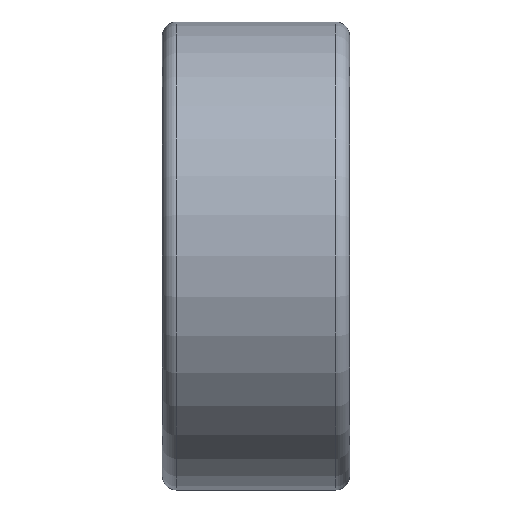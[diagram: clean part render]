
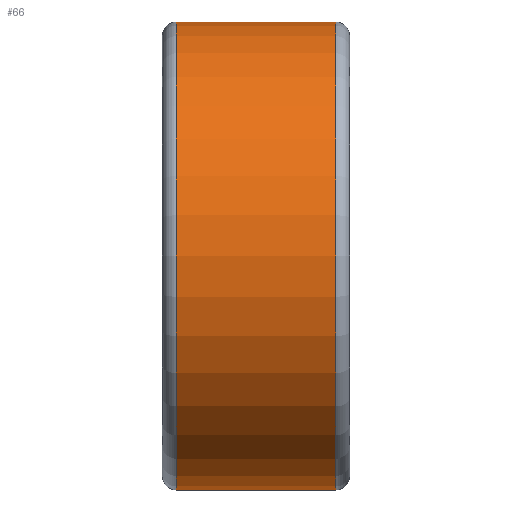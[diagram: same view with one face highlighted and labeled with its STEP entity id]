
A CAD part, front view. The second image highlights one B-rep face of the part: STEP entity #66.
In plain terms, the highlighted cylindrical face has radius 50 mm (diameter 100 mm), a partial arc.
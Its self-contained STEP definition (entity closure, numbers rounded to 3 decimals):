
#46 = CARTESIAN_POINT ( 'NONE',  ( -24.235, 0., 50. ) ) ;
#60 = EDGE_CURVE ( 'NONE', #106, #672, #269, .T. ) ;
#66 = ADVANCED_FACE ( 'NONE', ( #272 ), #487, .T. ) ;
#105 = EDGE_CURVE ( 'NONE', #672, #637, #558, .T. ) ;
#106 = VERTEX_POINT ( 'NONE', #319 ) ;
#109 = EDGE_CURVE ( 'NONE', #386, #637, #479, .T. ) ;
#152 = DIRECTION ( 'NONE',  ( 0., 0., 1. ) ) ;
#155 = ORIENTED_EDGE ( 'NONE', *, *, #109, .T. ) ;
#214 = DIRECTION ( 'NONE',  ( -1., 0., 0. ) ) ;
#224 = CARTESIAN_POINT ( 'NONE',  ( -17., 0., -50. ) ) ;
#243 = CARTESIAN_POINT ( 'NONE',  ( 17., 0., 0. ) ) ;
#244 = VECTOR ( 'NONE', #710, 1000. ) ;
#250 = CARTESIAN_POINT ( 'NONE',  ( 17., 0., 50. ) ) ;
#269 = LINE ( 'NONE', #650, #302 ) ;
#272 = FACE_OUTER_BOUND ( 'NONE', #722, .T. ) ;
#284 = CARTESIAN_POINT ( 'NONE',  ( -17., 0., 50. ) ) ;
#296 = EDGE_CURVE ( 'NONE', #106, #386, #654, .T. ) ;
#302 = VECTOR ( 'NONE', #538, 1000. ) ;
#305 = ORIENTED_EDGE ( 'NONE', *, *, #60, .F. ) ;
#307 = DIRECTION ( 'NONE',  ( 0., 0., 1. ) ) ;
#319 = CARTESIAN_POINT ( 'NONE',  ( 17., 0., -50. ) ) ;
#386 = VERTEX_POINT ( 'NONE', #250 ) ;
#405 = ORIENTED_EDGE ( 'NONE', *, *, #105, .F. ) ;
#419 = ORIENTED_EDGE ( 'NONE', *, *, #296, .T. ) ;
#427 = DIRECTION ( 'NONE',  ( 0., 0., 1. ) ) ;
#470 = DIRECTION ( 'NONE',  ( -1., 0., 0. ) ) ;
#478 = AXIS2_PLACEMENT_3D ( 'NONE', #642, #586, #152 ) ;
#479 = LINE ( 'NONE', #46, #244 ) ;
#487 = CYLINDRICAL_SURFACE ( 'NONE', #639, 50. ) ;
#538 = DIRECTION ( 'NONE',  ( -1., 0., 0. ) ) ;
#558 = CIRCLE ( 'NONE', #478, 50. ) ;
#586 = DIRECTION ( 'NONE',  ( -1., 0., 0. ) ) ;
#637 = VERTEX_POINT ( 'NONE', #284 ) ;
#639 = AXIS2_PLACEMENT_3D ( 'NONE', #716, #214, #427 ) ;
#642 = CARTESIAN_POINT ( 'NONE',  ( -17., 0., 0. ) ) ;
#650 = CARTESIAN_POINT ( 'NONE',  ( -24.235, 0., -50. ) ) ;
#654 = CIRCLE ( 'NONE', #721, 50. ) ;
#672 = VERTEX_POINT ( 'NONE', #224 ) ;
#710 = DIRECTION ( 'NONE',  ( -1., 0., 0. ) ) ;
#716 = CARTESIAN_POINT ( 'NONE',  ( -24.235, 0., 0. ) ) ;
#721 = AXIS2_PLACEMENT_3D ( 'NONE', #243, #470, #307 ) ;
#722 = EDGE_LOOP ( 'NONE', ( #305, #419, #155, #405 ) ) ;
